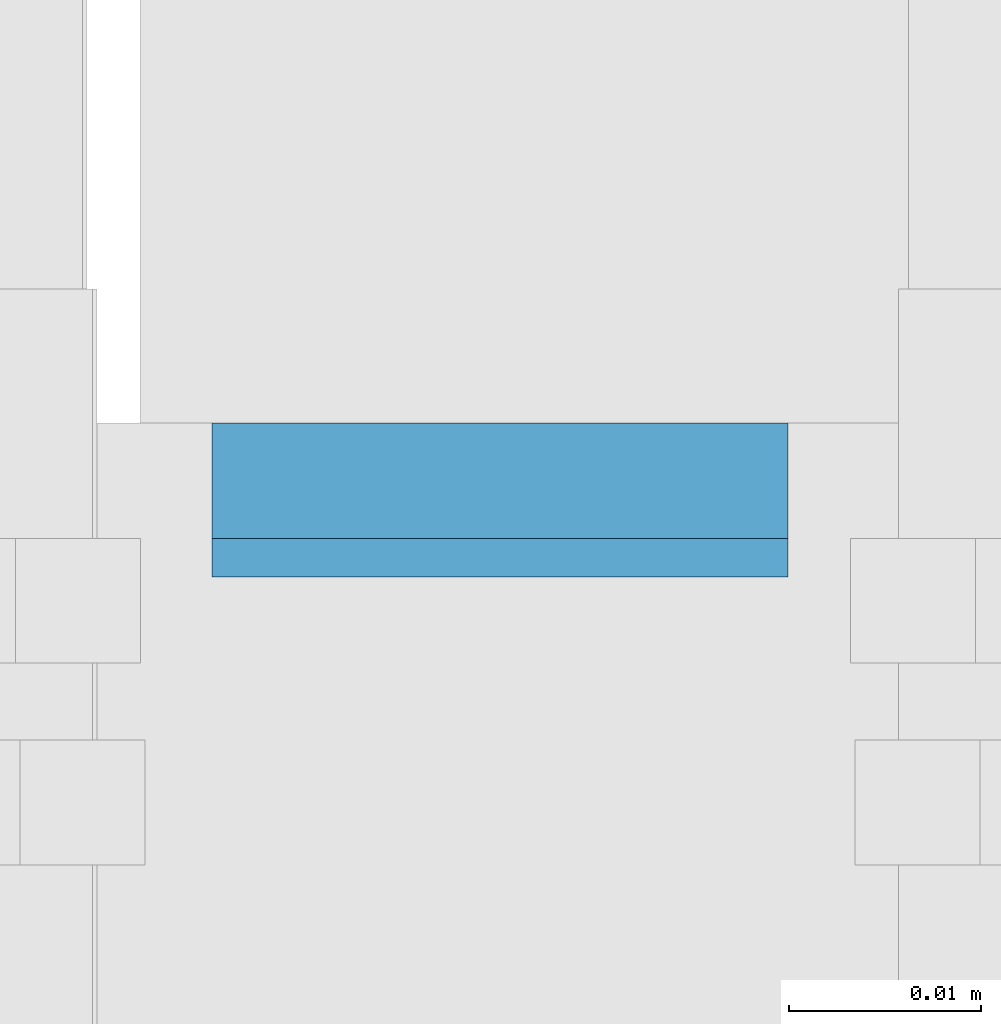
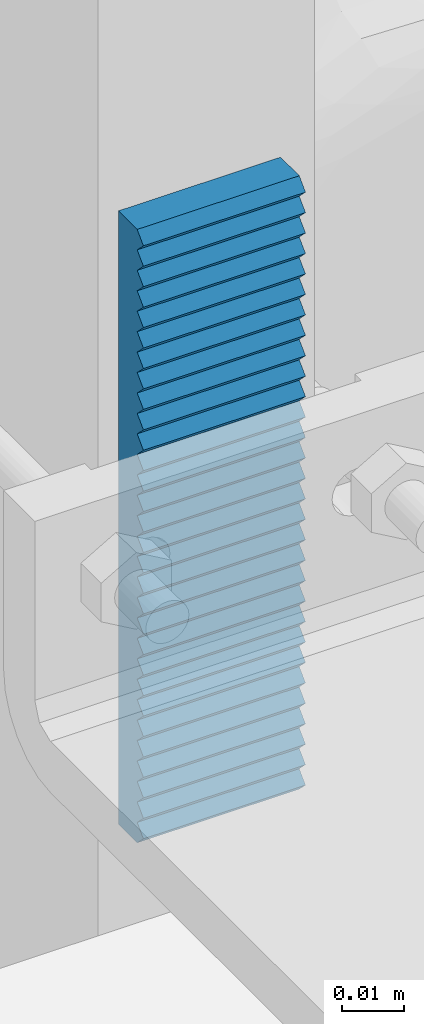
# One storey, part 4 of 13: 1 assembly.
"""IFC2X3 building model written with IfcOpenShell, lengths in metres."""

from ifc_helpers import new_model, entity, si_unit, converted_unit, derived_unit, direction, frame, origin, place, context, subcontext, project, spatial, polyline, outline, extrude, source, transform, mapped, material, type_object, type_shapes, element, save


model = new_model("IFC2X3")

# Units and contexts
model_context = context("Model", 3, precision=1e-05, world=origin(), true_north=direction((6.123031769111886e-17, 1.0)))
body_context = subcontext(model_context, "Body", "Model", "MODEL_VIEW")
ifc_project = project(units=[si_unit("LENGTHUNIT", "METRE"), si_unit("AREAUNIT", "SQUARE_METRE"), converted_unit("PLANEANGLEUNIT", "DEGREE", entity("IfcPlaneAngleMeasure", 0.017453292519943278), si_unit("PLANEANGLEUNIT", "RADIAN"), dimensions=[0, 0, 0, 0, 0, 0, 0]), si_unit("VOLUMEUNIT", "CUBIC_METRE"), derived_unit("THERMALTRANSMITTANCEUNIT", [(si_unit("MASSUNIT", "GRAM", prefix="KILO"), 1), (si_unit("THERMODYNAMICTEMPERATUREUNIT", "KELVIN"), -1), (si_unit("TIMEUNIT", "SECOND"), -3)]), derived_unit("USERDEFINED", [(si_unit("MASSUNIT", "GRAM", prefix="KILO"), 1), (si_unit("THERMODYNAMICTEMPERATUREUNIT", "KELVIN"), -1), (si_unit("TIMEUNIT", "SECOND"), -2)]), derived_unit("THERMALRESISTANCEUNIT", [(si_unit("MASSUNIT", "GRAM", prefix="KILO"), -1), (si_unit("TIMEUNIT", "SECOND"), 3), (si_unit("THERMODYNAMICTEMPERATUREUNIT", "KELVIN"), 1)]), derived_unit("MASSDENSITYUNIT", [(si_unit("MASSUNIT", "GRAM", prefix="KILO"), 1), (si_unit("LENGTHUNIT", "METRE"), -3)]), derived_unit("VAPORPERMEABILITYUNIT", [(si_unit("LENGTHUNIT", "METRE"), -1), (si_unit("TIMEUNIT", "SECOND"), 1)]), derived_unit("USERDEFINED", [(si_unit("MASSUNIT", "GRAM", prefix="KILO"), 1), (si_unit("TIMEUNIT", "SECOND"), -3), (si_unit("LENGTHUNIT", "METRE"), 3), (si_unit("ELECTRICCURRENTUNIT", "AMPERE"), -2)]), si_unit("PRESSUREUNIT", "PASCAL")], contexts=[model_context])

# Site, building, storey
site_placement = place(None, origin())
site = spatial("IfcSite", under=ifc_project, at=site_placement, Name="Default", CompositionType="ELEMENT")
building_placement = place(site_placement, origin())
building = spatial("IfcBuilding", under=site, at=building_placement, CompositionType="ELEMENT")
storey_placement = place(building_placement, origin())
storey = spatial("IfcBuildingStorey", under=building, at=storey_placement, Name="L0", CompositionType="ELEMENT", Elevation=0.0)

# Assembly
ifc_material = material(Name="REC_Acero, S 275JR (Zincado)")
type_product = type_object("IfcTypeProduct", Name="REC-PD120308:PD120308", material=ifc_material)
shared_shape = source(origin(), body_context, "Body", "SweptSolid", [
    extrude(outline(polyline([(-0.006761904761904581, -0.059999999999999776), (-0.0007619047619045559, -0.059999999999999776), (0.0012380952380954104, -0.05799999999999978), (-0.0007619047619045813, -0.05599999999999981), (0.0012380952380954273, -0.05399999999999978), (-0.0007619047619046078, -0.05199999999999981), (0.0012380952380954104, -0.049999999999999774), (-0.0007619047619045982, -0.04799999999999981), (0.0012380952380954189, -0.04599999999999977), (-0.0007619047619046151, -0.04399999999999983), (0.0012380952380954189, -0.041999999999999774), (-0.0007619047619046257, -0.03999999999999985), (0.0012380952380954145, -0.03799999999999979), (-0.0007619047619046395, -0.03599999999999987), (0.001238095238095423, -0.03399999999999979), (-0.00076190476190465, -0.03199999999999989), (0.0012380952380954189, -0.0299999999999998), (-0.0007619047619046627, -0.027999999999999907), (0.001238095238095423, -0.025999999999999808), (-0.0007619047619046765, -0.023999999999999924), (0.0012380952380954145, -0.02199999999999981), (-0.0007619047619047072, -0.019999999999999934), (0.0012380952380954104, -0.017999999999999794), (-0.0007619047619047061, -0.015999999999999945), (0.0012380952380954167, -0.013999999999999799), (-0.0007619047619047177, -0.011999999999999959), (0.0012380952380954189, -0.009999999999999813), (-0.0007619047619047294, -0.00799999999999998), (0.0012380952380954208, -0.005999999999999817), (-0.0007619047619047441, -0.004000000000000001), (0.0012380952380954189, -0.0019999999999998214), (-0.0007619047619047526, 0.0), (0.0012380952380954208, 0.002000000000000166), (-0.0007619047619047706, 0.003999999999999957), (0.0012380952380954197, 0.006000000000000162), (-0.0007619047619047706, 0.007999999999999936), (0.0012380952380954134, 0.010000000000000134), (-0.0007619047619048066, 0.011999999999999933), (0.0012380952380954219, 0.014000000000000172), (-0.0007619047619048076, 0.015999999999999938), (0.0012380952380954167, 0.018000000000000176), (-0.000761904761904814, 0.019999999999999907), (0.0012380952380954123, 0.022000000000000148), (-0.0007619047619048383, 0.023999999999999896), (0.0012380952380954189, 0.02600000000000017), (-0.0007619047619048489, 0.027999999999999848), (0.0012380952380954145, 0.030000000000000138), (-0.0007619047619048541, 0.031999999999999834), (0.0012380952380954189, 0.03400000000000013), (-0.0007619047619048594, 0.035999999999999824), (0.0012380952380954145, 0.03800000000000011), (-0.000761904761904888, 0.03999999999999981), (0.0012380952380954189, 0.04200000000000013), (-0.0007619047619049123, 0.043999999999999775), (0.0012380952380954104, 0.04600000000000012), (-0.0007619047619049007, 0.04799999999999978), (0.0012380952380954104, 0.05000000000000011), (-0.0007619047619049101, 0.05199999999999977), (0.0012380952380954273, 0.05400000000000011), (-0.0007619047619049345, 0.05599999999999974), (0.0012380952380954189, 0.05800000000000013), (-0.0007619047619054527, 0.06000000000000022), (-0.006761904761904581, 0.06000000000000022), (-0.006761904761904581, -0.059999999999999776)])), frame((0.0, -0.014999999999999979, 0.006761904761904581), z_axis=(0.0, 1.0, 0.0), x_axis=(0.0, 0.0, 1.0)), (0.0, 0.0, 1.0), 0.03),
])
type_shapes(type_product, [shared_shape])
assembly_placement = place(storey_placement, frame((4.956482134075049, 15.994530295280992, 0.031999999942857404), z_axis=(0.0, -1.0, 0.0), x_axis=(0.0, 0.0, 1.0)))
element("IfcElementAssembly", 1, at=assembly_placement, inside=storey, type_object=type_product, material=ifc_material, Name="REC-PD120308:PD120308", ObjectType="REC-PD120308:PD120308", AssemblyPlace="NOTDEFINED", PredefinedType="NOTDEFINED", context=body_context, shape_type="MappedRepresentation", body=[
    mapped(shared_shape, transform((0.0, 0.0, 0.0), scale=1.0)),
])

save(model, "model.ifc")
